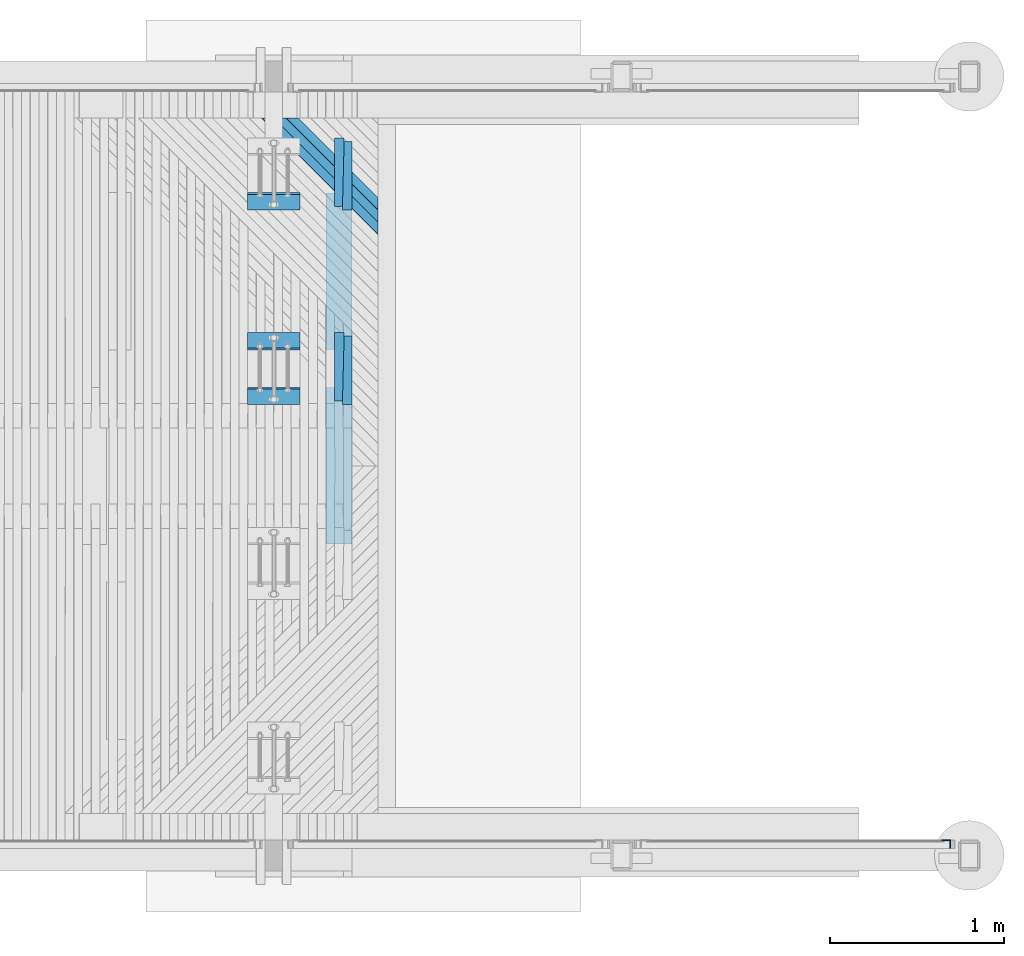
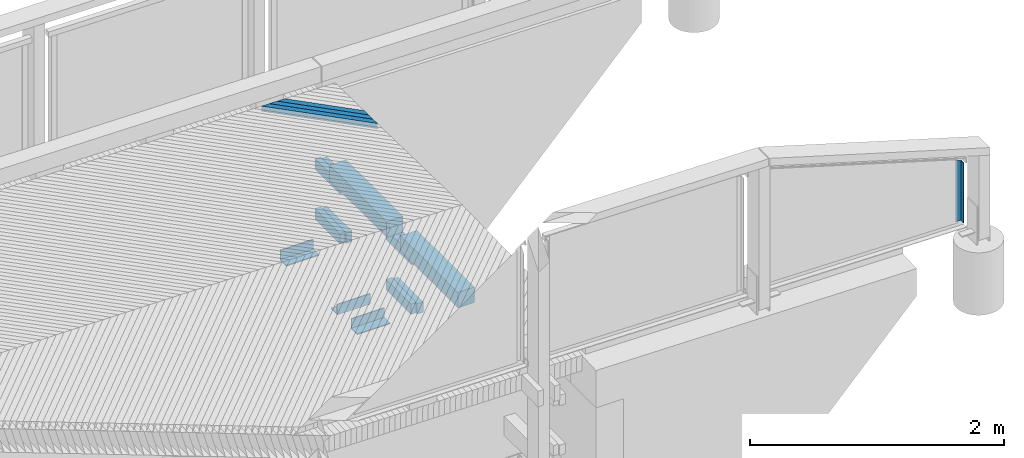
# One storey, part 54 of 65: 17 beams.
"""IFC2X3 building model written with IfcOpenShell, lengths in millimetres."""

from ifc_helpers import new_model, si_unit, frame, origin_with_axes, place, context, subcontext, project, spatial, faceted_brep, material, type_object, element, save


model = new_model("IFC2X3")

# Units and contexts
model_context = context("Model", 3, precision=1e-05, world=origin_with_axes())
body_context = subcontext(model_context, "Body", "Model", "MODEL_VIEW")
ifc_project = project(units=[si_unit("LENGTHUNIT", "METRE", prefix="MILLI"), si_unit("AREAUNIT", "SQUARE_METRE"), si_unit("VOLUMEUNIT", "CUBIC_METRE"), si_unit("MASSUNIT", "GRAM", prefix="KILO"), si_unit("TIMEUNIT", "SECOND"), si_unit("PLANEANGLEUNIT", "RADIAN"), si_unit("SOLIDANGLEUNIT", "STERADIAN"), si_unit("THERMODYNAMICTEMPERATUREUNIT", "DEGREE_CELSIUS"), si_unit("LUMINOUSINTENSITYUNIT", "LUMEN")], contexts=[model_context])

# Site, building, storey
site_placement = place(None, origin_with_axes())
site = spatial("IfcSite", under=ifc_project, at=site_placement, Name="Undefined", CompositionType="ELEMENT")
building_placement = place(site_placement, origin_with_axes())
building = spatial("IfcBuilding", under=site, at=building_placement, Name="Undefined", CompositionType="ELEMENT")
storey_placement = place(building_placement, origin_with_axes())
storey = spatial("IfcBuildingStorey", under=building, at=storey_placement, Name="Undefined", CompositionType="ELEMENT", Elevation=0.0)

# Beams
ifc_material_1 = material(Name="TIMBER/Timber_Undefined")
beam_type_1 = type_object("IfcBeamType", Name="150*150", PredefinedType="NOTDEFINED")
for number, where, z_axis, x_axis, name in (
    (1, (16375.0061224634, 23035.0011300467, 2658.99214114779), (-4.45050000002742e-05, 0.0, 0.999999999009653), (0.0, 1.0, 0.0), "BEAM"),
    (2, (16375.0061224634, 21915.0011300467, 2658.99214114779), (-4.45050000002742e-05, 0.0, 0.999999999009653), (0.0, 1.0, 0.0), "BEAM"),
):
    element("IfcBeam", number, at=place(storey_placement, frame(where, z_axis=z_axis, x_axis=x_axis)), inside=storey, type_object=beam_type_1, material=ifc_material_1, Name=name, ObjectType="150*150", context=body_context, shape_type="Brep", body=[
        faceted_brep([(3.63797880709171e-12, 75.0000000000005, -75.0), (3.63797880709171e-12, 75.0000000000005, 75.0), (900.0, 75.0, 75.0000000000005), (900.0, 74.9999999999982, -74.9999999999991), (0.0, -75.0000000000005, 75.0), (900.0, -75.0000000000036, 75.0000000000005), (0.0, -75.0000000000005, -75.0), (900.0, -75.0, -74.9999999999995)], [[[0, 1, 2, 3]], [[1, 4, 5, 2]], [[4, 6, 7, 5]], [[6, 0, 3, 7]], [[5, 7, 3, 2]], [[6, 4, 1, 0]]]),
    ])
ifc_material_2 = material(Name="STEEL/S235JR")
beam_type_2 = type_object("IfcBeamType", Name="L50*5", PredefinedType="NOTDEFINED")
beam_1_placement = place(storey_placement, frame((19867.5024948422, 20190.01, 3780.87123337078), z_axis=(0.0, -1.0, 0.0), x_axis=(0.0, 0.0, -1.0)))
element("IfcBeam", 3, at=beam_1_placement, inside=storey, type_object=beam_type_2, material=ifc_material_2, Name="BEAM", ObjectType="L50*5", context=body_context, shape_type="Brep", body=[
    faceted_brep([(0.433759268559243, 25.0, -25.0), (0.433759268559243, 25.0, 25.0), (575.567211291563, 25.0, 25.0), (575.567211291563, 25.0, -25.0), (-1.05882686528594, 20.0, 25.0), (575.567211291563, 20.0, 25.0), (-1.05882686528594, 20.0, -20.0), (575.567211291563, 20.0, -20.0), (-14.4921020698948, -25.0, -20.0), (575.567211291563, -25.0, -20.0), (-14.4921020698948, -25.0, -25.0), (575.567211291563, -25.0, -25.0)], [[[0, 1, 2, 3]], [[1, 4, 5, 2]], [[4, 6, 7, 5]], [[6, 8, 9, 7]], [[8, 10, 11, 9]], [[10, 0, 3, 11]], [[5, 7, 9, 11, 3, 2]], [[10, 8, 6, 4, 1, 0]]]),
])
beam_type_3 = type_object("IfcBeamType", Name="50*50", PredefinedType="NOTDEFINED")
beam_2_placement = place(storey_placement, frame((18107.4487159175, 22365.4998996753, 3151.28064987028), z_axis=(0.706798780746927, 0.706981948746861, -0.0247387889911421), x_axis=(-0.707255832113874, 0.706948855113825, -0.00353612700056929)))
element("IfcBeam", 4, at=beam_2_placement, inside=storey, type_object=beam_type_3, material=ifc_material_1, Name="BEAM", ObjectType="50*50", context=body_context, shape_type="Brep", body=[
    faceted_brep([(2804.34067830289, -25.0, 25.0000000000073), (2854.34301907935, -24.9999999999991, -25.0000000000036), (2852.92877373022, 25.0000000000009, -25.0), (2802.92643296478, 25.0, 25.0), (2156.91881662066, 24.9999999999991, 24.9999999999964), (2155.85915193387, -25.0000000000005, 25.0), (2105.89146353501, -25.0000000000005, -25.0), (2106.95112822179, 24.9999999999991, -25.0000000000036)], [[[0, 1, 2, 3]], [[0, 3, 4, 5]], [[1, 0, 5, 6]], [[2, 1, 6, 7]], [[3, 2, 7, 4]], [[6, 5, 4, 7]]]),
])
beam_3_placement = place(storey_placement, frame((18036.7343783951, 22365.4998996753, 3152.46372437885), z_axis=(0.706801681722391, 0.706981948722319, -0.024655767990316), x_axis=(-0.707255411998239, 0.70694885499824, -0.00361920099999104)))
element("IfcBeam", 5, at=beam_3_placement, inside=storey, type_object=beam_type_3, material=ifc_material_1, Name="BEAM", ObjectType="50*50", context=body_context, shape_type="Brep", body=[
    faceted_brep([(2804.34067830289, -25.0, 25.0000000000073), (2854.34301907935, -24.9999999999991, -25.0000000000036), (2852.92877373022, 25.0000000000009, -25.0), (2802.92643296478, 25.0, 25.0), (2056.93189078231, 25.0, 25.0), (2055.88052681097, -24.9999999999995, 25.0), (2005.91260364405, -25.0, -25.0000000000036), (2006.96396761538, 25.0, -24.9999999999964)], [[[0, 1, 2, 3]], [[0, 3, 4, 5]], [[1, 0, 5, 6]], [[2, 1, 6, 7]], [[3, 2, 7, 4]], [[6, 5, 4, 7]]]),
])
beam_4_placement = place(storey_placement, frame((17966.0199023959, 22365.4998996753, 3153.6384927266), z_axis=(0.70680457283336, 0.706981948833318, -0.0245727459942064), x_axis=(-0.707254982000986, 0.706948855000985, -0.00370227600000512)))
element("IfcBeam", 6, at=beam_4_placement, inside=storey, type_object=beam_type_3, material=ifc_material_1, Name="BEAM", ObjectType="50*50", context=body_context, shape_type="Brep", body=[
    faceted_brep([(2804.34067830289, -25.0, 25.0000000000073), (2854.34301907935, -24.9999999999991, -25.0000000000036), (2852.92877373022, 25.0000000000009, -25.0), (2802.92643296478, 25.0, 25.0), (1956.94467730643, 25.0, 24.9999999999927), (1955.90161414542, -24.9999999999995, 24.9999999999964), (1905.9334562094, -24.9999999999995, -25.0000000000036), (1906.9765193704, 25.0, -25.0000000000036)], [[[0, 1, 2, 3]], [[0, 3, 4, 5]], [[1, 0, 5, 6]], [[2, 1, 6, 7]], [[3, 2, 7, 4]], [[6, 5, 4, 7]]]),
])
beam_type_4 = type_object("IfcBeamType", Name="L100*10", PredefinedType="NOTDEFINED")
for number, where, z_axis, x_axis, name in (
    (7, (16150.0, 22767.5000000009, 2047.33), (0.0, -1.0, 0.0), (-1.0, 0.0, 0.0), "BEAM"),
    (8, (16150.0, 23082.5000000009, 2047.33), (0.0, 0.0, 1.0), (-1.0, 0.0, 0.0), "BEAM"),
    (9, (16150.0, 23887.5000000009, 2025.33), (0.0, -1.0, 0.0), (-1.0, 0.0, 0.0), "BEAM"),
):
    element("IfcBeam", number, at=place(storey_placement, frame(where, z_axis=z_axis, x_axis=x_axis)), inside=storey, type_object=beam_type_4, material=ifc_material_2, Name=name, ObjectType="L100*10", context=body_context, shape_type="Brep", body=[
        faceted_brep([(0.0, 50.0, -50.0), (0.0, 50.0, 50.0), (300.0, 50.0, 50.0), (300.0, 50.0, -50.0), (0.0, 40.0, 50.0), (300.0, 40.0, 50.0), (0.0, 40.0, -40.0), (300.0, 40.0, -40.0), (0.0, -50.0, -40.0), (300.0, -50.0, -40.0), (0.0, -50.0, -50.0), (300.0, -50.0, -50.0)], [[[0, 1, 2, 3]], [[1, 4, 5, 2]], [[4, 6, 7, 5]], [[6, 8, 9, 7]], [[8, 10, 11, 9]], [[10, 0, 3, 11]], [[5, 7, 9, 11, 3, 2]], [[10, 8, 6, 4, 1, 0]]]),
    ])
beam_type_5 = type_object("IfcBeamType", Name="100*60", PredefinedType="NOTDEFINED")
beam_5_placement = place(storey_placement, frame((16380.01, 23857.5, 2533.62000000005), z_axis=(0.0, 0.0, 1.0), x_axis=(0.0, 1.0, 0.0)))
element("IfcBeam", 10, at=beam_5_placement, inside=storey, type_object=beam_type_5, material=ifc_material_1, Name="BEAM", ObjectType="100*60", context=body_context, shape_type="Brep", body=[
    faceted_brep([(0.0, 30.0, -50.0), (0.0, 30.0, 50.0), (395.0, 30.0, 50.0), (395.0, 30.0, -50.0), (395.0, -25.2500000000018, 50.0), (395.0, -25.2500000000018, -50.0), (0.0, -15.2499998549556, -50.0), (0.0, -15.2499998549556, 50.0)], [[[0, 1, 2, 3]], [[3, 2, 4, 5]], [[0, 3, 5, 6]], [[1, 0, 6, 7]], [[2, 1, 7, 4]], [[6, 5, 4, 7]]]),
])
beam_6_placement = place(storey_placement, frame((16420.01, 23837.5, 2533.62000000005), z_axis=(0.0, 0.0, 1.0), x_axis=(0.0, 1.0, 0.0)))
element("IfcBeam", 11, at=beam_6_placement, inside=storey, type_object=beam_type_5, material=ifc_material_1, Name="BEAM", ObjectType="100*60", context=body_context, shape_type="Brep", body=[
    faceted_brep([(0.0, -30.0, 50.0), (0.0, -30.0, -50.0), (395.0, -30.0, -50.0), (395.0, -30.0, 50.0), (395.0, 15.2563291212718, 50.0), (0.0, 25.2563292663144, 50.0), (0.0, 25.2563292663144, -50.0), (395.0, 15.2563291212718, -50.0)], [[[0, 1, 2, 3]], [[0, 3, 4, 5]], [[1, 0, 5, 6]], [[2, 1, 6, 7]], [[3, 2, 7, 4]], [[6, 5, 4, 7]]]),
])
beam_7_placement = place(storey_placement, frame((16380.0, 23857.5, 2055.33), z_axis=(0.0, 0.0, 1.0), x_axis=(0.0, 1.0, 0.0)))
element("IfcBeam", 12, at=beam_7_placement, inside=storey, type_object=beam_type_5, material=ifc_material_1, Name="BEAM", ObjectType="100*60", context=body_context, shape_type="Brep", body=[
    faceted_brep([(0.0, 30.0, -50.0), (0.0, 30.0, 50.0), (395.0, 30.0, 50.0), (395.0, 30.0, -50.0), (395.0, -25.2500000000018, 50.0), (395.0, -25.2500000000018, -50.0), (0.0, -15.2499998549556, -50.0), (0.0, -15.2499998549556, 50.0)], [[[0, 1, 2, 3]], [[3, 2, 4, 5]], [[0, 3, 5, 6]], [[1, 0, 6, 7]], [[2, 1, 7, 4]], [[6, 5, 4, 7]]]),
])
beam_8_placement = place(storey_placement, frame((16420.0, 23837.5, 2055.33), z_axis=(0.0, 0.0, 1.0), x_axis=(0.0, 1.0, 0.0)))
element("IfcBeam", 13, at=beam_8_placement, inside=storey, type_object=beam_type_5, material=ifc_material_1, Name="BEAM", ObjectType="100*60", context=body_context, shape_type="Brep", body=[
    faceted_brep([(0.0, -30.0, 50.0), (0.0, -30.0, -50.0), (395.0, -30.0, -50.0), (395.0, -30.0, 50.0), (395.0, 15.2563291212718, 50.0), (0.0, 25.2563292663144, 50.0), (0.0, 25.2563292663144, -50.0), (395.0, 15.2563291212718, -50.0)], [[[0, 1, 2, 3]], [[0, 3, 4, 5]], [[1, 0, 5, 6]], [[2, 1, 6, 7]], [[3, 2, 7, 4]], [[6, 5, 4, 7]]]),
])
beam_9_placement = place(storey_placement, frame((16380.01, 22737.5, 2533.62000000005), z_axis=(0.0, 0.0, 1.0), x_axis=(0.0, 1.0, 0.0)))
element("IfcBeam", 14, at=beam_9_placement, inside=storey, type_object=beam_type_5, material=ifc_material_1, Name="BEAM", ObjectType="100*60", context=body_context, shape_type="Brep", body=[
    faceted_brep([(0.0, 30.0, -50.0), (0.0, 30.0, 50.0), (395.0, 30.0, 50.0), (395.0, 30.0, -50.0), (395.0, -25.2500000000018, 50.0), (395.0, -25.2500000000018, -50.0), (0.0, -15.2499998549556, -50.0), (0.0, -15.2499998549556, 50.0)], [[[0, 1, 2, 3]], [[3, 2, 4, 5]], [[0, 3, 5, 6]], [[1, 0, 6, 7]], [[2, 1, 7, 4]], [[6, 5, 4, 7]]]),
])
beam_10_placement = place(storey_placement, frame((16420.01, 22717.5, 2533.62000000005), z_axis=(0.0, 0.0, 1.0), x_axis=(0.0, 1.0, 0.0)))
element("IfcBeam", 15, at=beam_10_placement, inside=storey, type_object=beam_type_5, material=ifc_material_1, Name="BEAM", ObjectType="100*60", context=body_context, shape_type="Brep", body=[
    faceted_brep([(0.0, -30.0, 50.0), (0.0, -30.0, -50.0), (395.0, -30.0, -50.0), (395.0, -30.0, 50.0), (395.0, 15.2563291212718, 50.0), (0.0, 25.2563292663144, 50.0), (0.0, 25.2563292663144, -50.0), (395.0, 15.2563291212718, -50.0)], [[[0, 1, 2, 3]], [[0, 3, 4, 5]], [[1, 0, 5, 6]], [[2, 1, 6, 7]], [[3, 2, 7, 4]], [[6, 5, 4, 7]]]),
])
beam_11_placement = place(storey_placement, frame((16380.0, 22737.5, 2055.33), z_axis=(0.0, 0.0, 1.0), x_axis=(0.0, 1.0, 0.0)))
element("IfcBeam", 16, at=beam_11_placement, inside=storey, type_object=beam_type_5, material=ifc_material_1, Name="BEAM", ObjectType="100*60", context=body_context, shape_type="Brep", body=[
    faceted_brep([(0.0, 30.0, -50.0), (0.0, 30.0, 50.0), (395.0, 30.0, 50.0), (395.0, 30.0, -50.0), (395.0, -25.2500000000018, 50.0), (395.0, -25.2500000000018, -50.0), (0.0, -15.2499998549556, -50.0), (0.0, -15.2499998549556, 50.0)], [[[0, 1, 2, 3]], [[3, 2, 4, 5]], [[0, 3, 5, 6]], [[1, 0, 6, 7]], [[2, 1, 7, 4]], [[6, 5, 4, 7]]]),
])
beam_12_placement = place(storey_placement, frame((16420.0, 22717.5, 2055.33), z_axis=(0.0, 0.0, 1.0), x_axis=(0.0, 1.0, 0.0)))
element("IfcBeam", 17, at=beam_12_placement, inside=storey, type_object=beam_type_5, material=ifc_material_1, Name="BEAM", ObjectType="100*60", context=body_context, shape_type="Brep", body=[
    faceted_brep([(0.0, -30.0, 50.0), (0.0, -30.0, -50.0), (395.0, -30.0, -50.0), (395.0, -30.0, 50.0), (395.0, 15.2563291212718, 50.0), (0.0, 25.2563292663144, 50.0), (0.0, 25.2563292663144, -50.0), (395.0, 15.2563291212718, -50.0)], [[[0, 1, 2, 3]], [[0, 3, 4, 5]], [[1, 0, 5, 6]], [[2, 1, 6, 7]], [[3, 2, 7, 4]], [[6, 5, 4, 7]]]),
])

save(model, "model.ifc")
